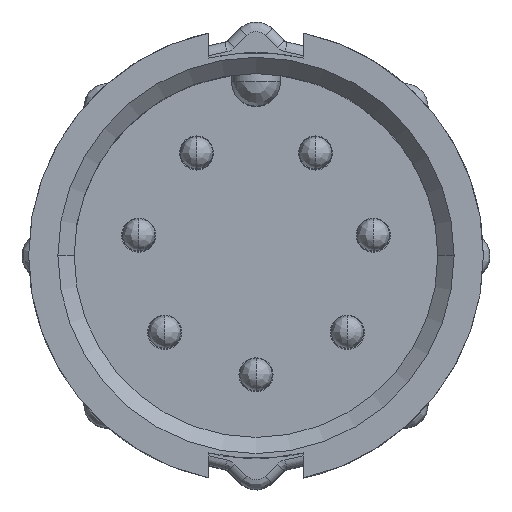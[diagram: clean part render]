
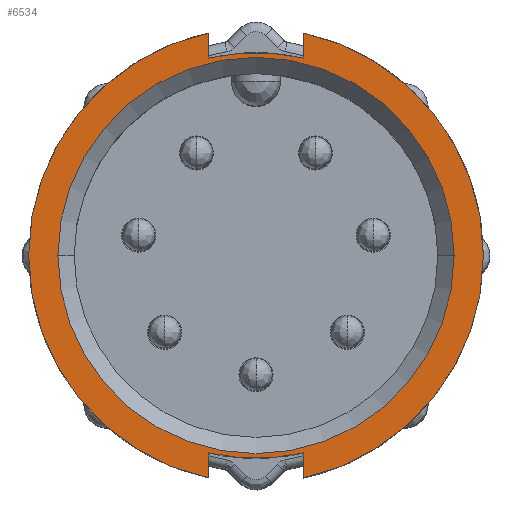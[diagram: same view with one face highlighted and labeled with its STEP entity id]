
A CAD part, top view. The second image highlights one B-rep face of the part: STEP entity #6534.
In plain terms, the highlighted planar face has unit normal (0, 0, 1).
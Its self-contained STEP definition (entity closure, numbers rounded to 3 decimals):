
#60 = AXIS2_PLACEMENT_3D ( 'NONE', #16170, #12014, #13276 ) ;
#104 = AXIS2_PLACEMENT_3D ( 'NONE', #17439, #16255, #14816 ) ;
#324 = CARTESIAN_POINT ( 'NONE',  ( 1.45, -6.848, 0. ) ) ;
#549 = LINE ( 'NONE', #11468, #9840 ) ;
#1146 = AXIS2_PLACEMENT_3D ( 'NONE', #15509, #4479, #14146 ) ;
#1532 = AXIS2_PLACEMENT_3D ( 'NONE', #3477, #4833, #13143 ) ;
#1580 = VERTEX_POINT ( 'NONE', #10437 ) ;
#1757 = DIRECTION ( 'NONE',  ( 0., -1., 0. ) ) ;
#2094 = EDGE_CURVE ( 'NONE', #7371, #17866, #16961, .T. ) ;
#2188 = FACE_OUTER_BOUND ( 'NONE', #11706, .T. ) ;
#2690 = CIRCLE ( 'NONE', #12786, 7. ) ;
#2759 = VECTOR ( 'NONE', #4739, 1000. ) ;
#2918 = EDGE_CURVE ( 'NONE', #17866, #17040, #8174, .T. ) ;
#2991 = EDGE_CURVE ( 'NONE', #8556, #7371, #2690, .T. ) ;
#3094 = AXIS2_PLACEMENT_3D ( 'NONE', #13213, #17731, #4344 ) ;
#3477 = CARTESIAN_POINT ( 'NONE',  ( 0., 0., 0. ) ) ;
#3827 = CARTESIAN_POINT ( 'NONE',  ( -1.45, 6.079, 0. ) ) ;
#3860 = VERTEX_POINT ( 'NONE', #16764 ) ;
#4014 = EDGE_CURVE ( 'NONE', #9721, #8556, #10329, .T. ) ;
#4039 = EDGE_CURVE ( 'NONE', #17040, #3860, #17117, .T. ) ;
#4071 = AXIS2_PLACEMENT_3D ( 'NONE', #14010, #7147, #12656 ) ;
#4271 = ORIENTED_EDGE ( 'NONE', *, *, #14476, .F. ) ;
#4344 = DIRECTION ( 'NONE',  ( 1., 0., 0. ) ) ;
#4479 = DIRECTION ( 'NONE',  ( 0., 0., 1. ) ) ;
#4611 = DIRECTION ( 'NONE',  ( 0., 1., 0. ) ) ;
#4739 = DIRECTION ( 'NONE',  ( 0., 1., 0. ) ) ;
#4833 = DIRECTION ( 'NONE',  ( 0., 0., 1. ) ) ;
#5525 = CARTESIAN_POINT ( 'NONE',  ( -1.45, -6.079, 0. ) ) ;
#5966 = CARTESIAN_POINT ( 'NONE',  ( 1.45, 6.079, 0. ) ) ;
#6316 = VERTEX_POINT ( 'NONE', #17014 ) ;
#6534 = ADVANCED_FACE ( 'NONE', ( #14572, #2188 ), #7706, .T. ) ;
#6931 = CARTESIAN_POINT ( 'NONE',  ( -1.45, 0., 0. ) ) ;
#7147 = DIRECTION ( 'NONE',  ( 0., 0., -1. ) ) ;
#7174 = CARTESIAN_POINT ( 'NONE',  ( -1.45, 6.848, 0. ) ) ;
#7371 = VERTEX_POINT ( 'NONE', #7174 ) ;
#7436 = ORIENTED_EDGE ( 'NONE', *, *, #4014, .F. ) ;
#7706 = PLANE ( 'NONE',  #3094 ) ;
#7846 = CIRCLE ( 'NONE', #60, 6.25 ) ;
#8174 = CIRCLE ( 'NONE', #104, 6.25 ) ;
#8556 = VERTEX_POINT ( 'NONE', #14225 ) ;
#8572 = ORIENTED_EDGE ( 'NONE', *, *, #11815, .F. ) ;
#8798 = CARTESIAN_POINT ( 'NONE',  ( 1.45, 0., 0. ) ) ;
#8826 = EDGE_LOOP ( 'NONE', ( #8572, #12750 ) ) ;
#9023 = DIRECTION ( 'NONE',  ( 0., 0., -1. ) ) ;
#9079 = VECTOR ( 'NONE', #9722, 1000. ) ;
#9497 = VERTEX_POINT ( 'NONE', #324 ) ;
#9721 = VERTEX_POINT ( 'NONE', #5525 ) ;
#9722 = DIRECTION ( 'NONE',  ( 0., -1., 0. ) ) ;
#9800 = ORIENTED_EDGE ( 'NONE', *, *, #2991, .F. ) ;
#9823 = VERTEX_POINT ( 'NONE', #9927 ) ;
#9840 = VECTOR ( 'NONE', #4611, 1000. ) ;
#9900 = CIRCLE ( 'NONE', #1532, 6.1 ) ;
#9913 = ORIENTED_EDGE ( 'NONE', *, *, #4039, .F. ) ;
#9927 = CARTESIAN_POINT ( 'NONE',  ( -6.1, 0., 0. ) ) ;
#10329 = LINE ( 'NONE', #12692, #13441 ) ;
#10437 = CARTESIAN_POINT ( 'NONE',  ( 1.45, -6.079, 0. ) ) ;
#11468 = CARTESIAN_POINT ( 'NONE',  ( 1.45, 0., 0. ) ) ;
#11706 = EDGE_LOOP ( 'NONE', ( #9800, #7436, #13899, #17783, #4271, #9913, #13501, #12820 ) ) ;
#11815 = EDGE_CURVE ( 'NONE', #9823, #6316, #12390, .T. ) ;
#12014 = DIRECTION ( 'NONE',  ( 0., 0., -1. ) ) ;
#12390 = CIRCLE ( 'NONE', #1146, 6.1 ) ;
#12656 = DIRECTION ( 'NONE',  ( 1., 0., 0. ) ) ;
#12692 = CARTESIAN_POINT ( 'NONE',  ( -1.45, 0., 0. ) ) ;
#12750 = ORIENTED_EDGE ( 'NONE', *, *, #16860, .F. ) ;
#12786 = AXIS2_PLACEMENT_3D ( 'NONE', #17259, #9023, #13183 ) ;
#12820 = ORIENTED_EDGE ( 'NONE', *, *, #2094, .F. ) ;
#13143 = DIRECTION ( 'NONE',  ( 1., 0., 0. ) ) ;
#13183 = DIRECTION ( 'NONE',  ( 1., 0., 0. ) ) ;
#13213 = CARTESIAN_POINT ( 'NONE',  ( -7.286, -7.122, 0. ) ) ;
#13276 = DIRECTION ( 'NONE',  ( 0., -1., 0. ) ) ;
#13441 = VECTOR ( 'NONE', #1757, 1000. ) ;
#13501 = ORIENTED_EDGE ( 'NONE', *, *, #2918, .F. ) ;
#13881 = CIRCLE ( 'NONE', #4071, 7. ) ;
#13899 = ORIENTED_EDGE ( 'NONE', *, *, #15264, .F. ) ;
#14010 = CARTESIAN_POINT ( 'NONE',  ( 0., 0., 0. ) ) ;
#14146 = DIRECTION ( 'NONE',  ( 1., 0., 0. ) ) ;
#14225 = CARTESIAN_POINT ( 'NONE',  ( -1.45, -6.848, 0. ) ) ;
#14361 = EDGE_CURVE ( 'NONE', #9497, #1580, #549, .T. ) ;
#14476 = EDGE_CURVE ( 'NONE', #3860, #9497, #13881, .T. ) ;
#14572 = FACE_BOUND ( 'NONE', #8826, .T. ) ;
#14816 = DIRECTION ( 'NONE',  ( 0., -1., 0. ) ) ;
#15264 = EDGE_CURVE ( 'NONE', #1580, #9721, #7846, .T. ) ;
#15509 = CARTESIAN_POINT ( 'NONE',  ( 0., 0., 0. ) ) ;
#16170 = CARTESIAN_POINT ( 'NONE',  ( 0., 0., 0. ) ) ;
#16255 = DIRECTION ( 'NONE',  ( 0., 0., -1. ) ) ;
#16764 = CARTESIAN_POINT ( 'NONE',  ( 1.45, 6.848, 0. ) ) ;
#16860 = EDGE_CURVE ( 'NONE', #6316, #9823, #9900, .T. ) ;
#16961 = LINE ( 'NONE', #6931, #9079 ) ;
#17014 = CARTESIAN_POINT ( 'NONE',  ( 6.1, 0., 0. ) ) ;
#17040 = VERTEX_POINT ( 'NONE', #5966 ) ;
#17117 = LINE ( 'NONE', #8798, #2759 ) ;
#17259 = CARTESIAN_POINT ( 'NONE',  ( 0., 0., 0. ) ) ;
#17439 = CARTESIAN_POINT ( 'NONE',  ( 0., 0., 0. ) ) ;
#17731 = DIRECTION ( 'NONE',  ( 0., 0., 1. ) ) ;
#17783 = ORIENTED_EDGE ( 'NONE', *, *, #14361, .F. ) ;
#17866 = VERTEX_POINT ( 'NONE', #3827 ) ;
